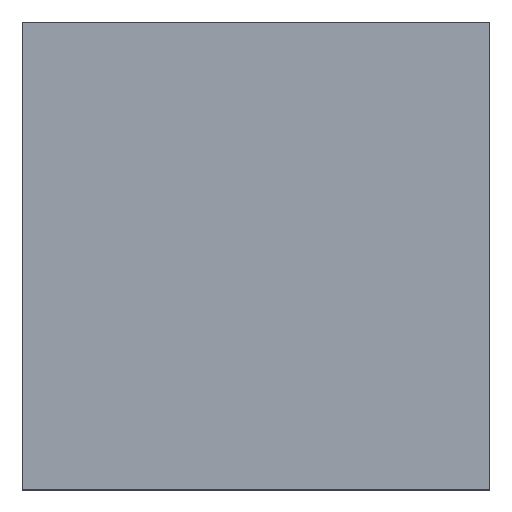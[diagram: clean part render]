
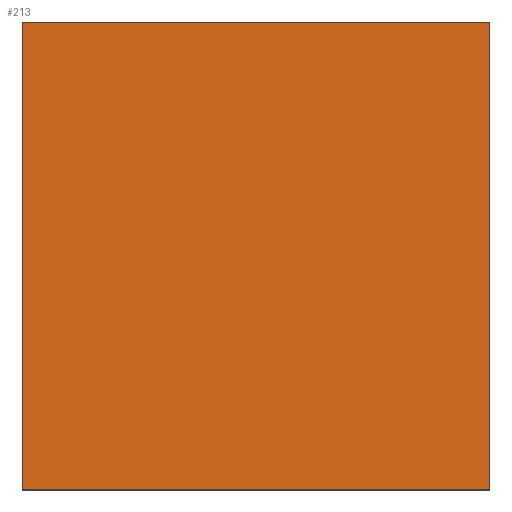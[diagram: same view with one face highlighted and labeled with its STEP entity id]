
A CAD part, top view. The second image highlights one B-rep face of the part: STEP entity #213.
In plain terms, the highlighted planar face has unit normal (0, 0, 1).
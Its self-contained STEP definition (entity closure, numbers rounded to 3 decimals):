
#24 = VERTEX_POINT('',#25);
#25 = CARTESIAN_POINT('',(12.,-15.,0.1));
#32 = PLANE('',#33);
#33 = AXIS2_PLACEMENT_3D('',#34,#35,#36);
#34 = CARTESIAN_POINT('',(12.,-15.,-2.1));
#35 = DIRECTION('',(1.,0.,-0.));
#36 = DIRECTION('',(0.,0.,1.));
#44 = PLANE('',#45);
#45 = AXIS2_PLACEMENT_3D('',#46,#47,#48);
#46 = CARTESIAN_POINT('',(12.,-15.,-2.1));
#47 = DIRECTION('',(-0.,1.,0.));
#48 = DIRECTION('',(0.,0.,1.));
#85 = VERTEX_POINT('',#86);
#86 = CARTESIAN_POINT('',(12.,5.,0.1));
#100 = PLANE('',#101);
#101 = AXIS2_PLACEMENT_3D('',#102,#103,#104);
#102 = CARTESIAN_POINT('',(12.,5.,-2.1));
#103 = DIRECTION('',(-0.,1.,0.));
#104 = DIRECTION('',(0.,0.,1.));
#112 = EDGE_CURVE('',#24,#85,#113,.T.);
#113 = SURFACE_CURVE('',#114,(#118,#125),.PCURVE_S1.);
#114 = LINE('',#115,#116);
#115 = CARTESIAN_POINT('',(12.,-15.,0.1));
#116 = VECTOR('',#117,1.);
#117 = DIRECTION('',(-0.,1.,0.));
#118 = PCURVE('',#32,#119);
#119 = DEFINITIONAL_REPRESENTATION('',(#120),#124);
#120 = LINE('',#121,#122);
#121 = CARTESIAN_POINT('',(2.2,0.));
#122 = VECTOR('',#123,1.);
#123 = DIRECTION('',(0.,-1.));
#124 = ( GEOMETRIC_REPRESENTATION_CONTEXT(2) 
PARAMETRIC_REPRESENTATION_CONTEXT() REPRESENTATION_CONTEXT('2D SPACE',''
  ) );
#125 = PCURVE('',#126,#131);
#126 = PLANE('',#127);
#127 = AXIS2_PLACEMENT_3D('',#128,#129,#130);
#128 = CARTESIAN_POINT('',(12.,-15.,0.1));
#129 = DIRECTION('',(0.,0.,1.));
#130 = DIRECTION('',(1.,0.,-0.));
#131 = DEFINITIONAL_REPRESENTATION('',(#132),#136);
#132 = LINE('',#133,#134);
#133 = CARTESIAN_POINT('',(0.,0.));
#134 = VECTOR('',#135,1.);
#135 = DIRECTION('',(0.,1.));
#136 = ( GEOMETRIC_REPRESENTATION_CONTEXT(2) 
PARAMETRIC_REPRESENTATION_CONTEXT() REPRESENTATION_CONTEXT('2D SPACE',''
  ) );
#165 = EDGE_CURVE('',#24,#166,#168,.T.);
#166 = VERTEX_POINT('',#167);
#167 = CARTESIAN_POINT('',(32.,-15.,0.1));
#168 = SURFACE_CURVE('',#169,(#173,#180),.PCURVE_S1.);
#169 = LINE('',#170,#171);
#170 = CARTESIAN_POINT('',(12.,-15.,0.1));
#171 = VECTOR('',#172,1.);
#172 = DIRECTION('',(1.,0.,-0.));
#173 = PCURVE('',#44,#174);
#174 = DEFINITIONAL_REPRESENTATION('',(#175),#179);
#175 = LINE('',#176,#177);
#176 = CARTESIAN_POINT('',(2.2,0.));
#177 = VECTOR('',#178,1.);
#178 = DIRECTION('',(0.,1.));
#179 = ( GEOMETRIC_REPRESENTATION_CONTEXT(2) 
PARAMETRIC_REPRESENTATION_CONTEXT() REPRESENTATION_CONTEXT('2D SPACE',''
  ) );
#180 = PCURVE('',#126,#181);
#181 = DEFINITIONAL_REPRESENTATION('',(#182),#186);
#182 = LINE('',#183,#184);
#183 = CARTESIAN_POINT('',(0.,0.));
#184 = VECTOR('',#185,1.);
#185 = DIRECTION('',(1.,0.));
#186 = ( GEOMETRIC_REPRESENTATION_CONTEXT(2) 
PARAMETRIC_REPRESENTATION_CONTEXT() REPRESENTATION_CONTEXT('2D SPACE',''
  ) );
#202 = PLANE('',#203);
#203 = AXIS2_PLACEMENT_3D('',#204,#205,#206);
#204 = CARTESIAN_POINT('',(32.,-15.,-2.1));
#205 = DIRECTION('',(1.,0.,-0.));
#206 = DIRECTION('',(0.,0.,1.));
#213 = ADVANCED_FACE('',(#214),#126,.T.);
#214 = FACE_BOUND('',#215,.T.);
#215 = EDGE_LOOP('',(#216,#217,#218,#241));
#216 = ORIENTED_EDGE('',*,*,#112,.F.);
#217 = ORIENTED_EDGE('',*,*,#165,.T.);
#218 = ORIENTED_EDGE('',*,*,#219,.T.);
#219 = EDGE_CURVE('',#166,#220,#222,.T.);
#220 = VERTEX_POINT('',#221);
#221 = CARTESIAN_POINT('',(32.,5.,0.1));
#222 = SURFACE_CURVE('',#223,(#227,#234),.PCURVE_S1.);
#223 = LINE('',#224,#225);
#224 = CARTESIAN_POINT('',(32.,-15.,0.1));
#225 = VECTOR('',#226,1.);
#226 = DIRECTION('',(-0.,1.,0.));
#227 = PCURVE('',#126,#228);
#228 = DEFINITIONAL_REPRESENTATION('',(#229),#233);
#229 = LINE('',#230,#231);
#230 = CARTESIAN_POINT('',(20.,0.));
#231 = VECTOR('',#232,1.);
#232 = DIRECTION('',(0.,1.));
#233 = ( GEOMETRIC_REPRESENTATION_CONTEXT(2) 
PARAMETRIC_REPRESENTATION_CONTEXT() REPRESENTATION_CONTEXT('2D SPACE',''
  ) );
#234 = PCURVE('',#202,#235);
#235 = DEFINITIONAL_REPRESENTATION('',(#236),#240);
#236 = LINE('',#237,#238);
#237 = CARTESIAN_POINT('',(2.2,0.));
#238 = VECTOR('',#239,1.);
#239 = DIRECTION('',(0.,-1.));
#240 = ( GEOMETRIC_REPRESENTATION_CONTEXT(2) 
PARAMETRIC_REPRESENTATION_CONTEXT() REPRESENTATION_CONTEXT('2D SPACE',''
  ) );
#241 = ORIENTED_EDGE('',*,*,#242,.F.);
#242 = EDGE_CURVE('',#85,#220,#243,.T.);
#243 = SURFACE_CURVE('',#244,(#248,#255),.PCURVE_S1.);
#244 = LINE('',#245,#246);
#245 = CARTESIAN_POINT('',(12.,5.,0.1));
#246 = VECTOR('',#247,1.);
#247 = DIRECTION('',(1.,0.,-0.));
#248 = PCURVE('',#126,#249);
#249 = DEFINITIONAL_REPRESENTATION('',(#250),#254);
#250 = LINE('',#251,#252);
#251 = CARTESIAN_POINT('',(0.,20.));
#252 = VECTOR('',#253,1.);
#253 = DIRECTION('',(1.,0.));
#254 = ( GEOMETRIC_REPRESENTATION_CONTEXT(2) 
PARAMETRIC_REPRESENTATION_CONTEXT() REPRESENTATION_CONTEXT('2D SPACE',''
  ) );
#255 = PCURVE('',#100,#256);
#256 = DEFINITIONAL_REPRESENTATION('',(#257),#261);
#257 = LINE('',#258,#259);
#258 = CARTESIAN_POINT('',(2.2,0.));
#259 = VECTOR('',#260,1.);
#260 = DIRECTION('',(0.,1.));
#261 = ( GEOMETRIC_REPRESENTATION_CONTEXT(2) 
PARAMETRIC_REPRESENTATION_CONTEXT() REPRESENTATION_CONTEXT('2D SPACE',''
  ) );
